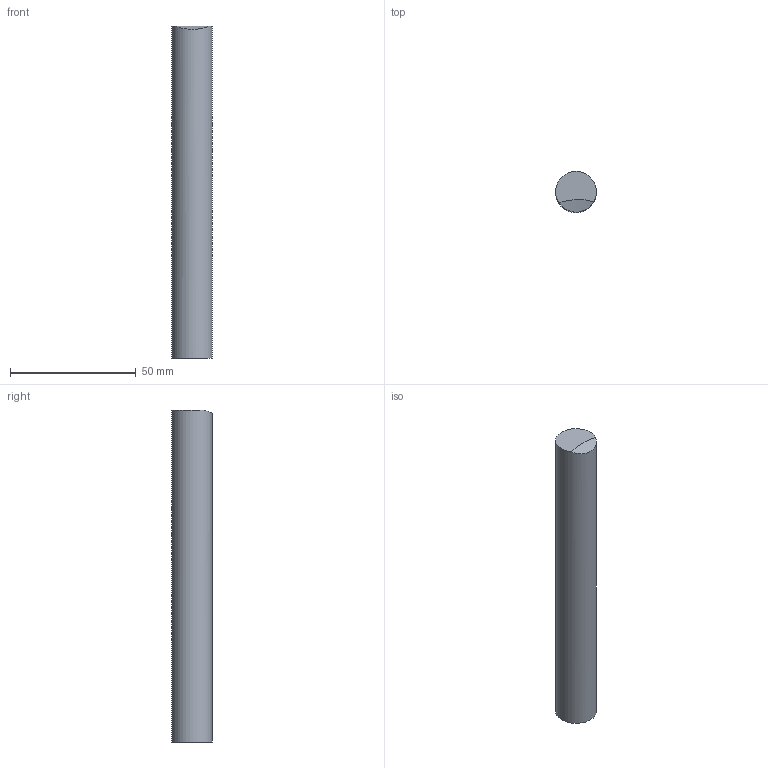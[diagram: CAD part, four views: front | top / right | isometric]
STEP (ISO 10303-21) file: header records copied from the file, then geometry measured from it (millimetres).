
FILE_DESCRIPTION(/* description */ ('STEP AP242 Edition 2','CAx-IF Rec.Pracs.---Representation and Presentation of Product Manufacturing Information (PMI)---4.0---2014-10-13','CAx-IF Rec.Pracs.---3D Tessellated Geometry---0.4---2014-09-14','2;1','CAx-IF Rec.Pracs.---User Defined Attributes---1.5---2016-08-15'),/* implementation_level */ '2;1');
FILE_NAME(/* name */ 'Part Studio 1 - Part 13',/* time_stamp */ '2026-10-19T00:09:51Z',/* author */ (''),/* organization */ (''),/* preprocessor_version */ 'ST-DEVELOPER v20',/* originating_system */ 'ONSHAPE BY PTC INC, 1.222',/* authorisation */ ' ');
FILE_SCHEMA (('AP242_MANAGED_MODEL_BASED_3D_ENGINEERING_MIM_LF { 1 0 10303 442 3 1 4 }'));
Length unit declared in the file: metre
Products named in the file (1): Part 13
Bounding box: 16.21 x 16.21 x 132 mm (x, y, z)
Volume: 27257.2 mm3; surface area: 7128.2 mm2
Topology: 1 solids, 1 shells, 4 faces, 6 edges, 4 vertices
Faces by surface type: plane 2, cylinder 1, cone 1
Full cylindrical faces by diameter (mm): 16.222 x1
Entity records: 105 total; most frequent: CARTESIAN_POINT 18, DIRECTION 16, ORIENTED_EDGE 8, AXIS2_PLACEMENT_3D 8, EDGE_LOOP 5, FACE_BOUND 5, EDGE_CURVE 4, ADVANCED_FACE 4
